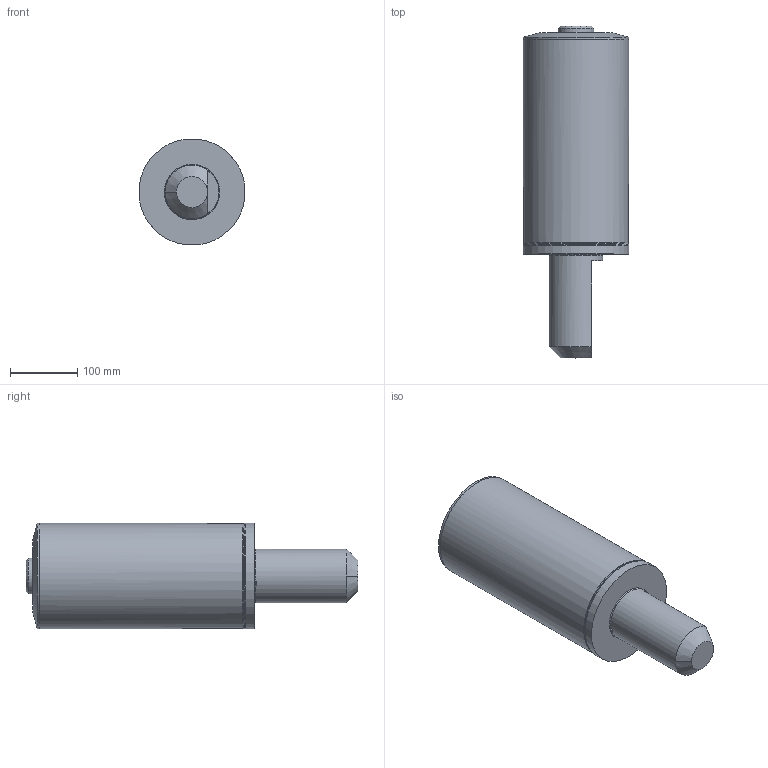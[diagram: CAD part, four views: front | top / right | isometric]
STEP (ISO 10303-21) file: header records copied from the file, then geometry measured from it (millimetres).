
FILE_DESCRIPTION(/* description */ (''),/* implementation_level */ '2;1');
FILE_NAME(/* name */ 'C:\V\Delavan\Designs\Customer Shell Models\Valves\W61\W60 6 IN XL ACT.STEP',/* time_stamp */ '2021-04-22T15:45:28-05:00',/* author */ ('FA67NH'),/* organization */ (''),/* preprocessor_version */ 'ST-DEVELOPER v18.1',/* originating_system */ 'Autodesk Inventor 2020',/* authorisation */ '');
FILE_SCHEMA (('AUTOMOTIVE_DESIGN { 1 0 10303 214 3 1 1 }'));
Length unit declared in the file: inch
Products named in the file (1): W60 6 IN XL ACT
Bounding box: 157.62 x 493.75 x 157.62 mm (x, y, z)
Volume: 6971174.8 mm3; surface area: 240475.1 mm2
Topology: 1 solids, 1 shells, 33 faces, 90 edges, 60 vertices
Faces by surface type: plane 11, cylinder 8, cone 6, torus 5, bspline 2, sphere 1
Full cylindrical faces by diameter (mm): 52.883 x1, 80.162 x1, 156.464 x1, 156.616 x1, 158.14 x1
Entity records: 1300 total; most frequent: CARTESIAN_POINT 411, DIRECTION 190, ORIENTED_EDGE 176, EDGE_CURVE 88, AXIS2_PLACEMENT_3D 84, VERTEX_POINT 60, CIRCLE 52, EDGE_LOOP 36
